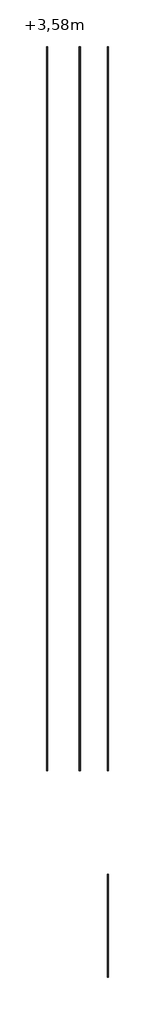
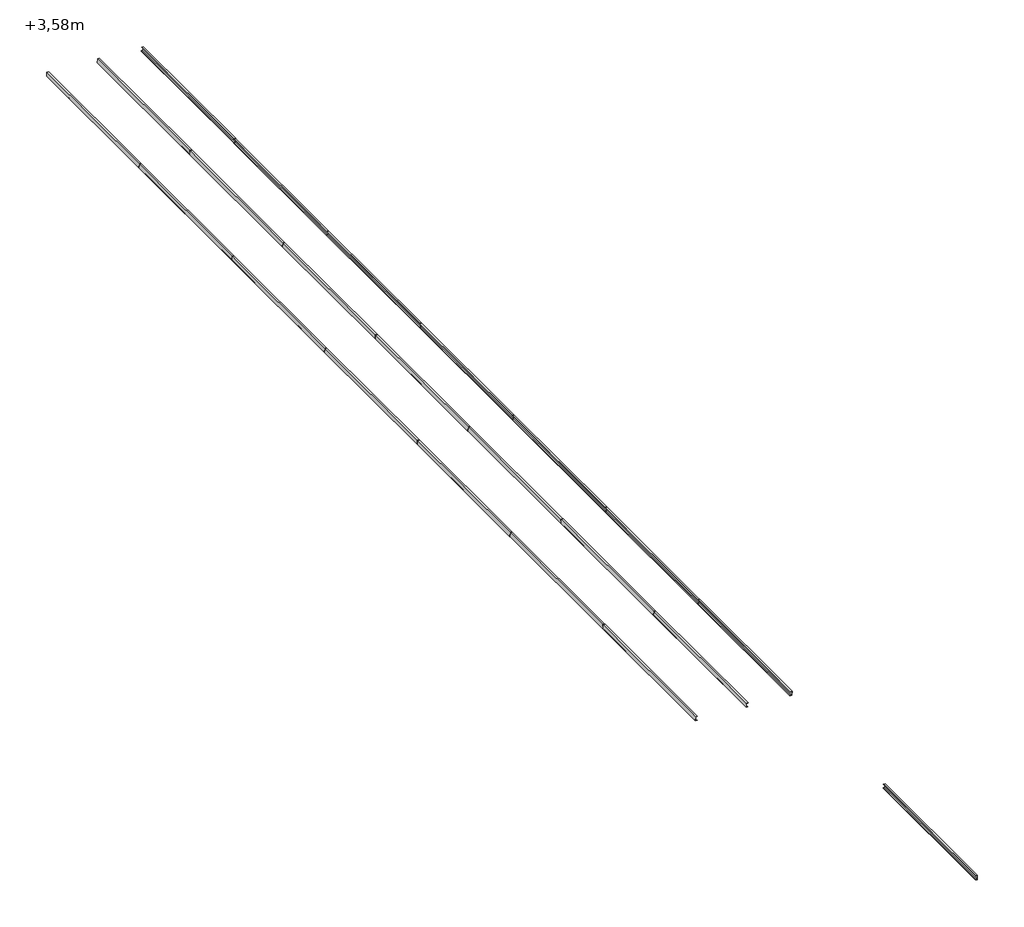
# One storey: 22 beams.
"""IFC4 building model written with IfcOpenShell, lengths in millimetres."""

from ifc_helpers import new_model, si_unit, origin, place, context, project, spatial, transform, mapped, element, save
from components import c160_97cef8d6, c160_676f0d43, c160_1365dad8

model = new_model("IFC4")

# Units and contexts
model_context = context("Model", 3, world=origin())
ifc_project = project(units=[si_unit("LENGTHUNIT", "METRE", prefix="MILLI")], contexts=[model_context])

# Site, building, storey
site = spatial("IfcSite", under=ifc_project)
building = spatial("IfcBuilding", under=site)
storey = spatial("IfcBuildingStorey", under=building, Name="+3,58m", Elevation=3580.0)

# Beams
placement = place(None, origin())
c160_shape = c160_97cef8d6(model_context)
element("IfcBeam", 1, ObjectType="RPLN C - Ceowniki normalne : C160", at=placement, inside=storey, context=model_context, shape_type="MappedRepresentation", body=[
    mapped(c160_shape, transform((11806.0493936, 14087.5183415, 3761.259887), x_axis=(0.0, -1.0, 0.0), y_axis=(0.997461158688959, 0.0, -0.07121261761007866), z_axis=(0.07121261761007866, 0.0, 0.997461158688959))),
])
c160_2_shape = c160_676f0d43(model_context)
element("IfcBeam", 2, ObjectType="RPLN C - Ceowniki normalne : C160", at=placement, inside=storey, context=model_context, shape_type="MappedRepresentation", body=[
    mapped(c160_2_shape, transform((8239.4941285, 14087.5183415, 4015.890089), x_axis=(0.0, 1.0, 0.0), y_axis=(-0.997461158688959, 0.0, 0.07121261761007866), z_axis=(0.07121261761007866, 0.0, 0.997461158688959))),
])
element("IfcBeam", 3, ObjectType="RPLN C - Ceowniki normalne : C160", at=placement, inside=storey, context=model_context, shape_type="MappedRepresentation", body=[
    mapped(c160_2_shape, transform((10134.6671984, 14087.5183415, 3880.5863391), x_axis=(0.0, 1.0, 0.0), y_axis=(-0.997461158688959, 0.0, 0.07121261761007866), z_axis=(0.07121261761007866, 0.0, 0.997461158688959))),
])
element("IfcBeam", 4, ObjectType="RPLN C - Ceowniki normalne : C160", at=placement, inside=storey, context=model_context, shape_type="MappedRepresentation", body=[
    mapped(c160_2_shape, transform((11806.0493936, -33912.4816585, 3761.259887), x_axis=(0.0, -1.0, 0.0), y_axis=(0.997461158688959, 0.0, -0.07121261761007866), z_axis=(0.07121261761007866, 0.0, 0.997461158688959))),
])
element("IfcBeam", 5, ObjectType="RPLN C - Ceowniki normalne : C160", at=placement, inside=storey, context=model_context, shape_type="MappedRepresentation", body=[
    mapped(c160_shape, transform((8239.4941285, -21912.4816585, 4015.890089), x_axis=(0.0, 1.0, 0.0), y_axis=(-0.997461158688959, 0.0, 0.07121261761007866), z_axis=(0.07121261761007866, 0.0, 0.997461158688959))),
])
element("IfcBeam", 6, ObjectType="RPLN C - Ceowniki normalne : C160", at=placement, inside=storey, context=model_context, shape_type="MappedRepresentation", body=[
    mapped(c160_shape, transform((10134.6671984, -21912.4816585, 3880.5863391), x_axis=(0.0, 1.0, 0.0), y_axis=(-0.997461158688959, 0.0, 0.07121261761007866), z_axis=(0.07121261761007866, 0.0, 0.997461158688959))),
])
element("IfcBeam", 7, ObjectType="RPLN C - Ceowniki normalne : C160", at=placement, inside=storey, context=model_context, shape_type="MappedRepresentation", body=[
    mapped(c160_shape, transform((8239.4941285, -15912.4816585, 4015.890089), x_axis=(0.0, 1.0, 0.0), y_axis=(-0.997461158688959, 0.0, 0.07121261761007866), z_axis=(0.07121261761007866, 0.0, 0.997461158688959))),
])
element("IfcBeam", 8, ObjectType="RPLN C - Ceowniki normalne : C160", at=placement, inside=storey, context=model_context, shape_type="MappedRepresentation", body=[
    mapped(c160_shape, transform((10134.6671984, -15912.4816585, 3880.5863391), x_axis=(0.0, 1.0, 0.0), y_axis=(-0.997461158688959, 0.0, 0.07121261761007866), z_axis=(0.07121261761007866, 0.0, 0.997461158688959))),
])
element("IfcBeam", 9, ObjectType="RPLN C - Ceowniki normalne : C160", at=placement, inside=storey, context=model_context, shape_type="MappedRepresentation", body=[
    mapped(c160_shape, transform((8239.4941285, -9912.4816585, 4015.890089), x_axis=(0.0, 1.0, 0.0), y_axis=(-0.997461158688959, 0.0, 0.07121261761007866), z_axis=(0.07121261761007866, 0.0, 0.997461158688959))),
])
element("IfcBeam", 10, ObjectType="RPLN C - Ceowniki normalne : C160", at=placement, inside=storey, context=model_context, shape_type="MappedRepresentation", body=[
    mapped(c160_shape, transform((10134.6671984, -9912.4816585, 3880.5863391), x_axis=(0.0, 1.0, 0.0), y_axis=(-0.997461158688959, 0.0, 0.07121261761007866), z_axis=(0.07121261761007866, 0.0, 0.997461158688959))),
])
element("IfcBeam", 11, ObjectType="RPLN C - Ceowniki normalne : C160", at=placement, inside=storey, context=model_context, shape_type="MappedRepresentation", body=[
    mapped(c160_shape, transform((8239.4941285, -3912.4816585, 4015.890089), x_axis=(0.0, 1.0, 0.0), y_axis=(-0.997461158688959, 0.0, 0.07121261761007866), z_axis=(0.07121261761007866, 0.0, 0.997461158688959))),
])
element("IfcBeam", 12, ObjectType="RPLN C - Ceowniki normalne : C160", at=placement, inside=storey, context=model_context, shape_type="MappedRepresentation", body=[
    mapped(c160_shape, transform((10134.6671984, -3912.4816585, 3880.5863391), x_axis=(0.0, 1.0, 0.0), y_axis=(-0.997461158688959, 0.0, 0.07121261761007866), z_axis=(0.07121261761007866, 0.0, 0.997461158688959))),
])
element("IfcBeam", 13, ObjectType="RPLN C - Ceowniki normalne : C160", at=placement, inside=storey, context=model_context, shape_type="MappedRepresentation", body=[
    mapped(c160_shape, transform((8239.4941285, 2087.5183415, 4015.890089), x_axis=(0.0, 1.0, 0.0), y_axis=(-0.997461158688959, 0.0, 0.07121261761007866), z_axis=(0.07121261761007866, 0.0, 0.997461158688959))),
])
element("IfcBeam", 14, ObjectType="RPLN C - Ceowniki normalne : C160", at=placement, inside=storey, context=model_context, shape_type="MappedRepresentation", body=[
    mapped(c160_shape, transform((10134.6671984, 2087.5183415, 3880.5863391), x_axis=(0.0, 1.0, 0.0), y_axis=(-0.997461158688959, 0.0, 0.07121261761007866), z_axis=(0.07121261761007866, 0.0, 0.997461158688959))),
])
element("IfcBeam", 15, ObjectType="RPLN C - Ceowniki normalne : C160", at=placement, inside=storey, context=model_context, shape_type="MappedRepresentation", body=[
    mapped(c160_2_shape, transform((11806.0493936, -21912.4816585, 3761.259887), x_axis=(0.0, -1.0, 0.0), y_axis=(0.997461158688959, 0.0, -0.07121261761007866), z_axis=(0.07121261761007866, 0.0, 0.997461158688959))),
])
element("IfcBeam", 16, ObjectType="RPLN C - Ceowniki normalne : C160", at=placement, inside=storey, context=model_context, shape_type="MappedRepresentation", body=[
    mapped(c160_2_shape, transform((11806.0493936, -15912.4816585, 3761.259887), x_axis=(0.0, -1.0, 0.0), y_axis=(0.997461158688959, 0.0, -0.07121261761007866), z_axis=(0.07121261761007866, 0.0, 0.997461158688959))),
])
element("IfcBeam", 17, ObjectType="RPLN C - Ceowniki normalne : C160", at=placement, inside=storey, context=model_context, shape_type="MappedRepresentation", body=[
    mapped(c160_2_shape, transform((11806.0493936, -9912.4816585, 3761.259887), x_axis=(0.0, -1.0, 0.0), y_axis=(0.997461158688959, 0.0, -0.07121261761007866), z_axis=(0.07121261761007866, 0.0, 0.997461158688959))),
])
element("IfcBeam", 18, ObjectType="RPLN C - Ceowniki normalne : C160", at=placement, inside=storey, context=model_context, shape_type="MappedRepresentation", body=[
    mapped(c160_2_shape, transform((11806.0493936, -3912.4816585, 3761.259887), x_axis=(0.0, -1.0, 0.0), y_axis=(0.997461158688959, 0.0, -0.07121261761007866), z_axis=(0.07121261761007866, 0.0, 0.997461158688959))),
])
element("IfcBeam", 19, ObjectType="RPLN C - Ceowniki normalne : C160", at=placement, inside=storey, context=model_context, shape_type="MappedRepresentation", body=[
    mapped(c160_2_shape, transform((11806.0493936, 2087.5183415, 3761.259887), x_axis=(0.0, -1.0, 0.0), y_axis=(0.997461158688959, 0.0, -0.07121261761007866), z_axis=(0.07121261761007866, 0.0, 0.997461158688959))),
])
c160_3_shape = c160_1365dad8(model_context)
element("IfcBeam", 20, ObjectType="RPLN C - Ceowniki normalne : C160", at=placement, inside=storey, context=model_context, shape_type="MappedRepresentation", body=[
    mapped(c160_3_shape, transform((8239.4941285, 8087.5183415, 4015.890089), x_axis=(0.0, 1.0, 0.0), y_axis=(-0.997461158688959, 0.0, 0.07121261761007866), z_axis=(0.07121261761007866, 0.0, 0.997461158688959))),
])
element("IfcBeam", 21, ObjectType="RPLN C - Ceowniki normalne : C160", at=placement, inside=storey, context=model_context, shape_type="MappedRepresentation", body=[
    mapped(c160_3_shape, transform((10134.6671984, 8087.5183415, 3880.5863391), x_axis=(0.0, 1.0, 0.0), y_axis=(-0.997461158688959, 0.0, 0.07121261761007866), z_axis=(0.07121261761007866, 0.0, 0.997461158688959))),
])
element("IfcBeam", 22, ObjectType="RPLN C - Ceowniki normalne : C160", at=placement, inside=storey, context=model_context, shape_type="MappedRepresentation", body=[
    mapped(c160_3_shape, transform((11806.0493936, 8087.5183415, 3761.259887), x_axis=(0.0, -1.0, 0.0), y_axis=(0.997461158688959, 0.0, -0.07121261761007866), z_axis=(0.07121261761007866, 0.0, 0.997461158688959))),
])

save(model, "model.ifc")
